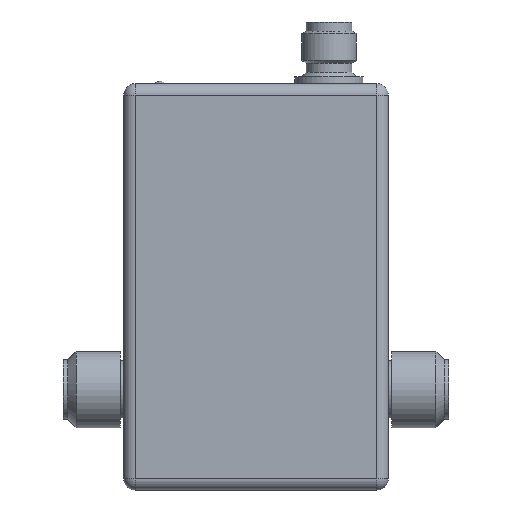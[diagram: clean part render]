
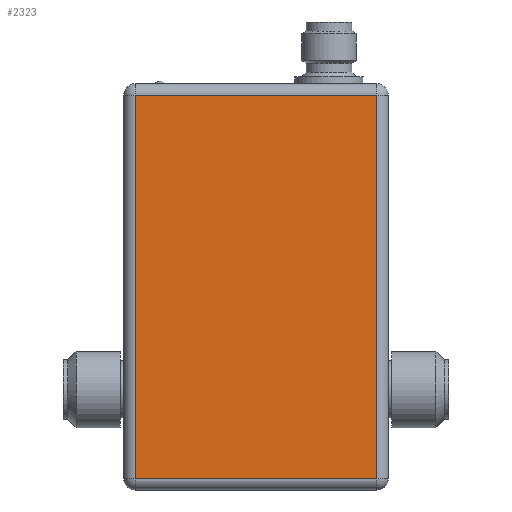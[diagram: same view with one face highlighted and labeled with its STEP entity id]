
A CAD part, front view. The second image highlights one B-rep face of the part: STEP entity #2323.
In plain terms, the highlighted planar face has unit normal (0, -1, 0).
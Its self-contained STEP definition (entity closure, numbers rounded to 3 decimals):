
#96=PLANE('',#2626);
#229=FACE_OUTER_BOUND('',#368,.T.);
#368=EDGE_LOOP('',(#1989,#1990,#1991,#1992));
#519=LINE('',#3998,#668);
#520=LINE('',#4001,#669);
#521=LINE('',#4003,#670);
#524=LINE('',#4010,#673);
#668=VECTOR('',#3313,10.);
#669=VECTOR('',#3318,10.);
#670=VECTOR('',#3321,10.);
#673=VECTOR('',#3332,10.);
#1046=VERTEX_POINT('',#3973);
#1048=VERTEX_POINT('',#3981);
#1050=VERTEX_POINT('',#3990);
#1051=VERTEX_POINT('',#3994);
#1363=EDGE_CURVE('',#1051,#1050,#519,.T.);
#1364=EDGE_CURVE('',#1048,#1051,#520,.T.);
#1365=EDGE_CURVE('',#1050,#1046,#521,.T.);
#1368=EDGE_CURVE('',#1046,#1048,#524,.T.);
#1989=ORIENTED_EDGE('',*,*,#1363,.F.);
#1990=ORIENTED_EDGE('',*,*,#1364,.F.);
#1991=ORIENTED_EDGE('',*,*,#1368,.F.);
#1992=ORIENTED_EDGE('',*,*,#1365,.F.);
#2323=ADVANCED_FACE('',(#229),#96,.F.);
#2626=AXIS2_PLACEMENT_3D('',#4016,#3341,#3342);
#3313=DIRECTION('',(0.,0.,-1.));
#3318=DIRECTION('',(1.,0.,0.));
#3321=DIRECTION('',(-1.,0.,0.));
#3332=DIRECTION('',(0.,0.,1.));
#3341=DIRECTION('center_axis',(0.,1.,0.));
#3342=DIRECTION('ref_axis',(0.,0.,1.));
#3973=CARTESIAN_POINT('',(-26.5,-18.,-19.5));
#3981=CARTESIAN_POINT('',(-26.5,-18.,64.5));
#3990=CARTESIAN_POINT('',(26.5,-18.,-19.5));
#3994=CARTESIAN_POINT('',(26.5,-18.,64.5));
#3998=CARTESIAN_POINT('',(26.5,-18.,0.25));
#4001=CARTESIAN_POINT('',(14.5,-18.,64.5));
#4003=CARTESIAN_POINT('',(-14.5,-18.,-19.5));
#4010=CARTESIAN_POINT('',(-26.5,-18.,44.75));
#4016=CARTESIAN_POINT('Origin',(0.,-18.,22.5));
